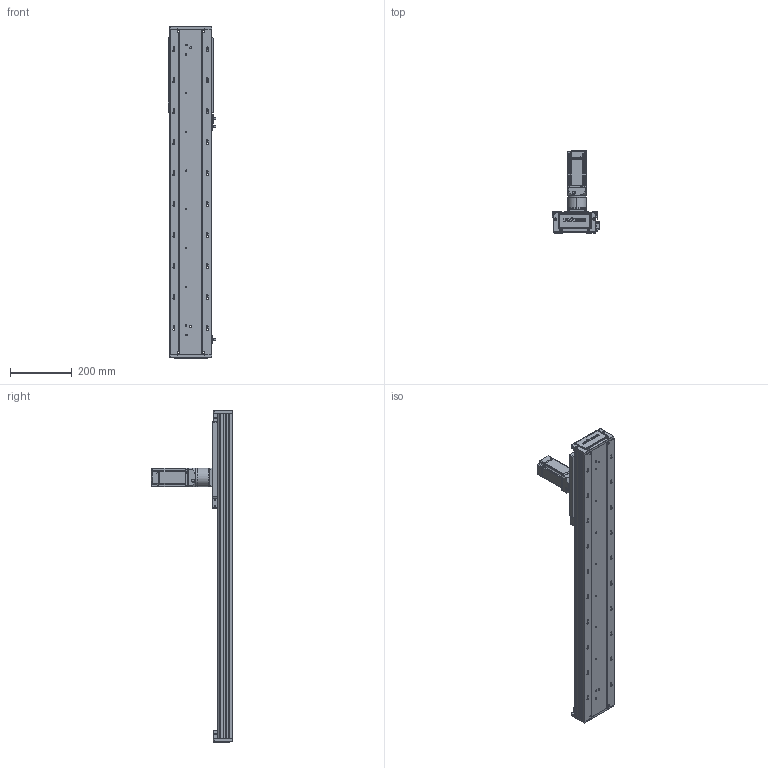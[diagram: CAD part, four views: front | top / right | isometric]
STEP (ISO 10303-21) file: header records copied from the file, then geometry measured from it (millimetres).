
FILE_DESCRIPTION (( 'STEP AP203' ), '1' );
FILE_NAME ('RY140-C-250-UK.SLDASM_700.step', '2022-03-12T01:58:41', ( '' ), ( '' ), 'SwSTEP 2.0', 'SolidWorks 2016', '' );
FILE_SCHEMA (( 'CONFIG_CONTROL_DESIGN' ));
Length unit declared in the file: millimetre
Products named in the file (12): RY140-喘謫萇儂覃誹啣; RY140-300齿条模组型材底座_700; 140蚥薯蝶輸; RY120外置感应片(140共用）; RY140-絳寢EGH15-300-MK_700; RY140-喘沭賑輸; 15; 覜茼ん672; RY140-喘沭裔啣; 絳寢賑輸EGH15; RY140-C-250-UK.SLDASM_700; 60ZDF珨撰俋倛芞T1 200W M4
Assembly tree (21 placements, depth 2):
  RY140-C-250-UK.SLDASM_700
    RY140-300齿条模组型材底座_700
    RY140-絳寢EGH15-300-MK_700  x2
    絳寢賑輸EGH15  x6
    RY140-喘沭裔啣  x2
    覜茼ん672  x3
    RY140-喘沭賑輸
    RY120外置感应片(140共用）
    RY140-喘謫萇儂覃誹啣
    140蚥薯蝶輸  x2
    60ZDF珨撰俋倛芞T1 200W M4
    15
Bounding box: 153.7 x 263.5 x 1072 mm (x, y, z)
Volume: 4323305.9 mm3; surface area: 1100116.4 mm2
Topology: 21 solids, 21 shells, 3242 faces, 8556 edges, 5544 vertices
Faces by surface type: plane 1630, cylinder 1350, cone 216, bspline 46
Entity records: 70809 total; most frequent: CARTESIAN_POINT 15086, DIRECTION 11353, ORIENTED_EDGE 11230, EDGE_CURVE 5615, AXIS2_PLACEMENT_3D 4008, VERTEX_POINT 3673, VECTOR 3337, LINE 3337
